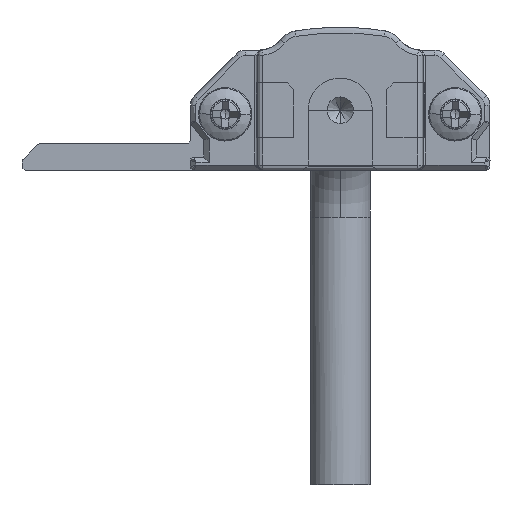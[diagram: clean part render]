
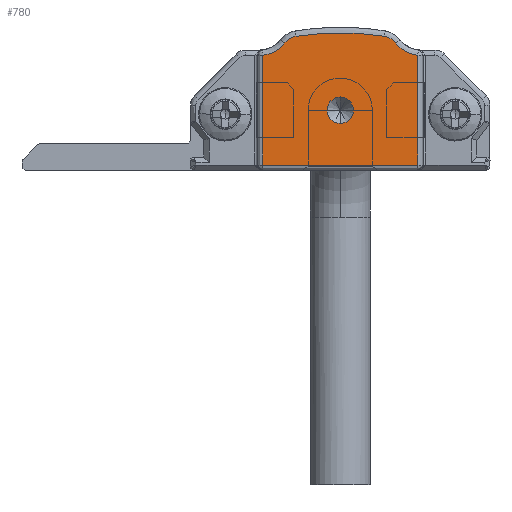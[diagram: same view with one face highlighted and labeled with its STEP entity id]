
A CAD part, front view. The second image highlights one B-rep face of the part: STEP entity #780.
In plain terms, the highlighted planar face has unit normal (0, -1, 0).
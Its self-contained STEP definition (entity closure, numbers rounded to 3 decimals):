
#517 = DIRECTION ( 'NONE',  ( 0., 0., -1. ) ) ;
#530 = VECTOR ( 'NONE', #13856, 1000. ) ;
#780 = ADVANCED_FACE ( 'NONE', ( #5508, #29493 ), #12572, .T. ) ;
#1126 = ORIENTED_EDGE ( 'NONE', *, *, #15926, .T. ) ;
#1148 = CARTESIAN_POINT ( 'NONE',  ( 5.4, -15., 8.612 ) ) ;
#1660 = AXIS2_PLACEMENT_3D ( 'NONE', #16801, #21798, #2300 ) ;
#2097 = EDGE_CURVE ( 'NONE', #18611, #4231, #25308, .T. ) ;
#2234 = CIRCLE ( 'NONE', #1660, 2.4 ) ;
#2300 = DIRECTION ( 'NONE',  ( 0., 0., -1. ) ) ;
#2471 = ORIENTED_EDGE ( 'NONE', *, *, #21311, .T. ) ;
#2744 = VECTOR ( 'NONE', #7659, 1000. ) ;
#2919 = CARTESIAN_POINT ( 'NONE',  ( 8.1, -15., 8.75 ) ) ;
#3152 = CARTESIAN_POINT ( 'NONE',  ( 15.332, -15., 9.541 ) ) ;
#4230 = CARTESIAN_POINT ( 'NONE',  ( 11.2, -15., 5.5 ) ) ;
#4231 = VERTEX_POINT ( 'NONE', #15851 ) ;
#5508 = FACE_OUTER_BOUND ( 'NONE', #21811, .T. ) ;
#5851 = ORIENTED_EDGE ( 'NONE', *, *, #23200, .T. ) ;
#6579 = DIRECTION ( 'NONE',  ( 0., 0., -1. ) ) ;
#6638 = DIRECTION ( 'NONE',  ( 0., 0., -1. ) ) ;
#7455 = VERTEX_POINT ( 'NONE', #3152 ) ;
#7659 = DIRECTION ( 'NONE',  ( 1., 0., 0. ) ) ;
#7947 = CIRCLE ( 'NONE', #8964, 20.676 ) ;
#8398 = DIRECTION ( 'NONE',  ( 0., -1., 0. ) ) ;
#8964 = AXIS2_PLACEMENT_3D ( 'NONE', #14018, #28564, #6638 ) ;
#9142 = EDGE_CURVE ( 'NONE', #26902, #7455, #2234, .T. ) ;
#9345 = VERTEX_POINT ( 'NONE', #21388 ) ;
#10778 = ORIENTED_EDGE ( 'NONE', *, *, #15725, .T. ) ;
#11112 = CARTESIAN_POINT ( 'NONE',  ( 17., -15., 8.612 ) ) ;
#11235 = CARTESIAN_POINT ( 'NONE',  ( 5.4, -15., 0.4 ) ) ;
#11708 = CIRCLE ( 'NONE', #16842, 1.3 ) ;
#11898 = CIRCLE ( 'NONE', #27236, 1.3 ) ;
#12142 = VERTEX_POINT ( 'NONE', #13060 ) ;
#12277 = ORIENTED_EDGE ( 'NONE', *, *, #9142, .T. ) ;
#12490 = DIRECTION ( 'NONE',  ( 0., -1., 0. ) ) ;
#12572 = PLANE ( 'NONE',  #21505 ) ;
#12586 = DIRECTION ( 'NONE',  ( 0., -1., 0. ) ) ;
#13060 = CARTESIAN_POINT ( 'NONE',  ( 7.892, -15., 10.034 ) ) ;
#13794 = DIRECTION ( 'NONE',  ( 0., -1., 0. ) ) ;
#13844 = CARTESIAN_POINT ( 'NONE',  ( 5.4, -15., 0.4 ) ) ;
#13856 = DIRECTION ( 'NONE',  ( 0., 0., 1. ) ) ;
#13992 = EDGE_CURVE ( 'NONE', #4231, #18611, #20809, .T. ) ;
#14018 = CARTESIAN_POINT ( 'NONE',  ( 11.2, -15., -10.376 ) ) ;
#14084 = ORIENTED_EDGE ( 'NONE', *, *, #17788, .T. ) ;
#15725 = EDGE_CURVE ( 'NONE', #7455, #9345, #11708, .T. ) ;
#15851 = CARTESIAN_POINT ( 'NONE',  ( 11.2, -15., 3.5 ) ) ;
#15926 = EDGE_CURVE ( 'NONE', #16265, #28081, #18931, .T. ) ;
#16060 = AXIS2_PLACEMENT_3D ( 'NONE', #25719, #8398, #30467 ) ;
#16120 = AXIS2_PLACEMENT_3D ( 'NONE', #26285, #13794, #6579 ) ;
#16265 = VERTEX_POINT ( 'NONE', #23452 ) ;
#16698 = EDGE_LOOP ( 'NONE', ( #17524, #28560 ) ) ;
#16801 = CARTESIAN_POINT ( 'NONE',  ( 17.238, -15., 11. ) ) ;
#16842 = AXIS2_PLACEMENT_3D ( 'NONE', #24327, #12586, #17572 ) ;
#16951 = VERTEX_POINT ( 'NONE', #13844 ) ;
#17524 = ORIENTED_EDGE ( 'NONE', *, *, #13992, .F. ) ;
#17572 = DIRECTION ( 'NONE',  ( 0., 0., -1. ) ) ;
#17788 = EDGE_CURVE ( 'NONE', #16951, #26679, #24367, .T. ) ;
#18611 = VERTEX_POINT ( 'NONE', #4230 ) ;
#18680 = LINE ( 'NONE', #11112, #530 ) ;
#18876 = VECTOR ( 'NONE', #21035, 1000. ) ;
#18931 = CIRCLE ( 'NONE', #23572, 2.4 ) ;
#19928 = DIRECTION ( 'NONE',  ( 0., 0., -1. ) ) ;
#20809 = CIRCLE ( 'NONE', #16120, 1. ) ;
#21035 = DIRECTION ( 'NONE',  ( 0., 0., -1. ) ) ;
#21311 = EDGE_CURVE ( 'NONE', #26679, #26902, #18680, .T. ) ;
#21388 = CARTESIAN_POINT ( 'NONE',  ( 14.508, -15., 10.034 ) ) ;
#21505 = AXIS2_PLACEMENT_3D ( 'NONE', #25242, #22504, #19928 ) ;
#21530 = DIRECTION ( 'NONE',  ( 0., 0., -1. ) ) ;
#21798 = DIRECTION ( 'NONE',  ( 0., 1., 0. ) ) ;
#21811 = EDGE_LOOP ( 'NONE', ( #2471, #12277, #10778, #27743, #5851, #1126, #31520, #14084 ) ) ;
#22504 = DIRECTION ( 'NONE',  ( 0., -1., 0. ) ) ;
#22996 = LINE ( 'NONE', #11235, #18876 ) ;
#23049 = CARTESIAN_POINT ( 'NONE',  ( 17., -15., 8.612 ) ) ;
#23200 = EDGE_CURVE ( 'NONE', #12142, #16265, #11898, .T. ) ;
#23452 = CARTESIAN_POINT ( 'NONE',  ( 7.068, -15., 9.541 ) ) ;
#23572 = AXIS2_PLACEMENT_3D ( 'NONE', #28697, #28559, #21530 ) ;
#24327 = CARTESIAN_POINT ( 'NONE',  ( 14.3, -15., 8.75 ) ) ;
#24367 = LINE ( 'NONE', #24674, #2744 ) ;
#24674 = CARTESIAN_POINT ( 'NONE',  ( 17., -15., 0.4 ) ) ;
#25242 = CARTESIAN_POINT ( 'NONE',  ( 22.15, -15., 3.606 ) ) ;
#25308 = CIRCLE ( 'NONE', #16060, 1. ) ;
#25719 = CARTESIAN_POINT ( 'NONE',  ( 11.2, -15., 4.5 ) ) ;
#25840 = CARTESIAN_POINT ( 'NONE',  ( 17., -15., 0.4 ) ) ;
#26285 = CARTESIAN_POINT ( 'NONE',  ( 11.2, -15., 4.5 ) ) ;
#26441 = EDGE_CURVE ( 'NONE', #9345, #12142, #7947, .T. ) ;
#26679 = VERTEX_POINT ( 'NONE', #25840 ) ;
#26902 = VERTEX_POINT ( 'NONE', #23049 ) ;
#27236 = AXIS2_PLACEMENT_3D ( 'NONE', #2919, #12490, #517 ) ;
#27743 = ORIENTED_EDGE ( 'NONE', *, *, #26441, .T. ) ;
#28081 = VERTEX_POINT ( 'NONE', #1148 ) ;
#28559 = DIRECTION ( 'NONE',  ( 0., 1., 0. ) ) ;
#28560 = ORIENTED_EDGE ( 'NONE', *, *, #2097, .F. ) ;
#28564 = DIRECTION ( 'NONE',  ( 0., -1., 0. ) ) ;
#28697 = CARTESIAN_POINT ( 'NONE',  ( 5.162, -15., 11. ) ) ;
#28778 = EDGE_CURVE ( 'NONE', #28081, #16951, #22996, .T. ) ;
#29493 = FACE_BOUND ( 'NONE', #16698, .T. ) ;
#30467 = DIRECTION ( 'NONE',  ( 0., 0., -1. ) ) ;
#31520 = ORIENTED_EDGE ( 'NONE', *, *, #28778, .T. ) ;
